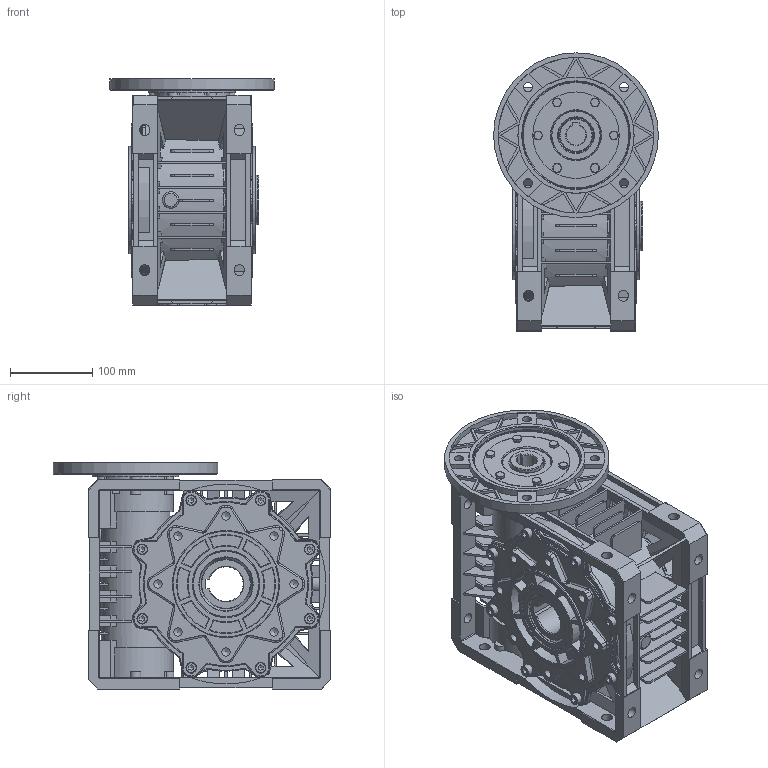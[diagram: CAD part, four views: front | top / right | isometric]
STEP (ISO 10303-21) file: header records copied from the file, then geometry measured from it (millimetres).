
FILE_DESCRIPTION((''),'2;1');
FILE_NAME('C:\Users\m.piscopiello.SITIRIDUTTORI\Desktop\FIGURINI VSF\FIG STEP\U-MU 110 STEP_old\MU 110 PAM 90 B5.stp','2016-03-08T10:12:41',('m.piscopiello'),(''),'Autodesk Inventor 2012','Autodesk Inventor 2012','');
FILE_SCHEMA(('CONFIG_CONTROL_DESIGN'));
Length unit declared in the file: millimetre
Products named in the file (1): 3F021173
Bounding box: 200 x 337.5 x 274.5 mm (x, y, z)
Volume: 6341570.4 mm3; surface area: 905261.8 mm2
Topology: 1 solids, 27 shells, 2181 faces, 5900 edges, 3747 vertices
Faces by surface type: plane 1180, cylinder 544, torus 221, cone 154, bspline 74, sphere 8
Full cylindrical faces by diameter (mm): 4.917 x12, 6 x12, 6.5 x6, 8 x24, 8.88 x6, 9 x8, 10.106 x16, 11 x4, 13 x24, 20 x1, 32 x1, 40 x2, 43.75 x1, 45.438 x1, 49 x1, 56.6 x1, 60 x6, 66 x2, 75 x2, 76.875 x1, 78 x1, 80 x7, 84 x1, 105 x2, 128 x1, 130 x3, 141 x1, 189 x1, 200 x1
Entity records: 68795 total; most frequent: CARTESIAN_POINT 15102, DIRECTION 11285, ORIENTED_EDGE 11012, EDGE_CURVE 5506, AXIS2_PLACEMENT_3D 4148, VERTEX_POINT 3651, VECTOR 2989, LINE 2989
